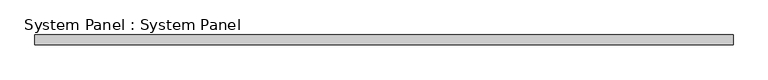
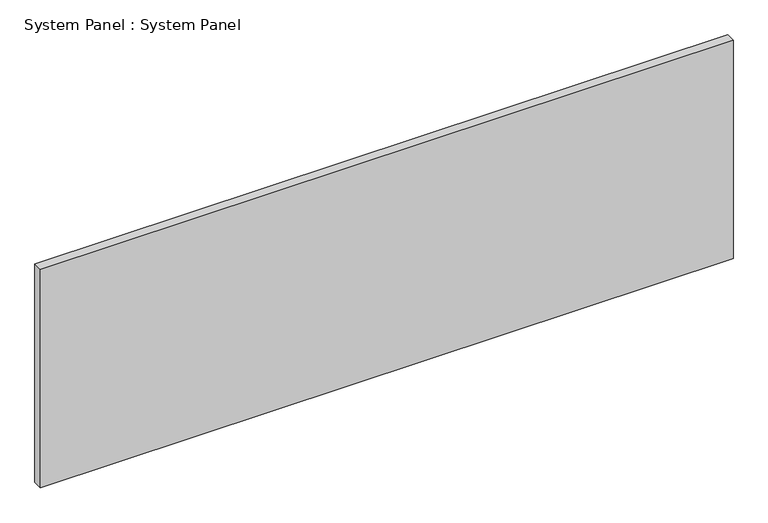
"""IFC4 building model written with IfcOpenShell, lengths in millimetres: plate geometry, System Panel : System Panel."""

from ifc_helpers import new_model, si_unit, origin, origin_with_axes, place, context, project, spatial, polyline, outline, extrude, source, transform, mapped, element, save


def system_panel_system_panel_63189bcd(model_context):
    return source(origin(), model_context, "Body", "SweptSolid", [
        extrude(outline(polyline([(914.4, 19.05), (-914.4, 19.05), (-914.4, 44.45), (914.4, 44.45), (914.4, 19.05)])), origin_with_axes(), (0.0, 0.0, 1.0), 609.6),
    ])


if __name__ == "__main__":
    model = new_model("IFC4")
    model_context = context("Model", 3, world=origin())
    ifc_project = project(units=[si_unit("LENGTHUNIT", "METRE", prefix="MILLI")], contexts=[model_context])
    site = spatial("IfcSite", under=ifc_project)
    building = spatial("IfcBuilding", under=site)
    placement = place(None, origin())
    system_panel_system_panel_shape = system_panel_system_panel_63189bcd(model_context)
    element("IfcPlate", 1, ObjectType="System Panel : System Panel", at=placement, inside=building, context=model_context, shape_type="MappedRepresentation", body=[
        mapped(system_panel_system_panel_shape, transform((0.0, 0.0, 0.0), x_axis=(1.0, 0.0, 0.0), y_axis=(0.0, 1.0, 0.0), z_axis=(0.0, 0.0, 1.0))),
    ])
    save(model, "model.ifc")
